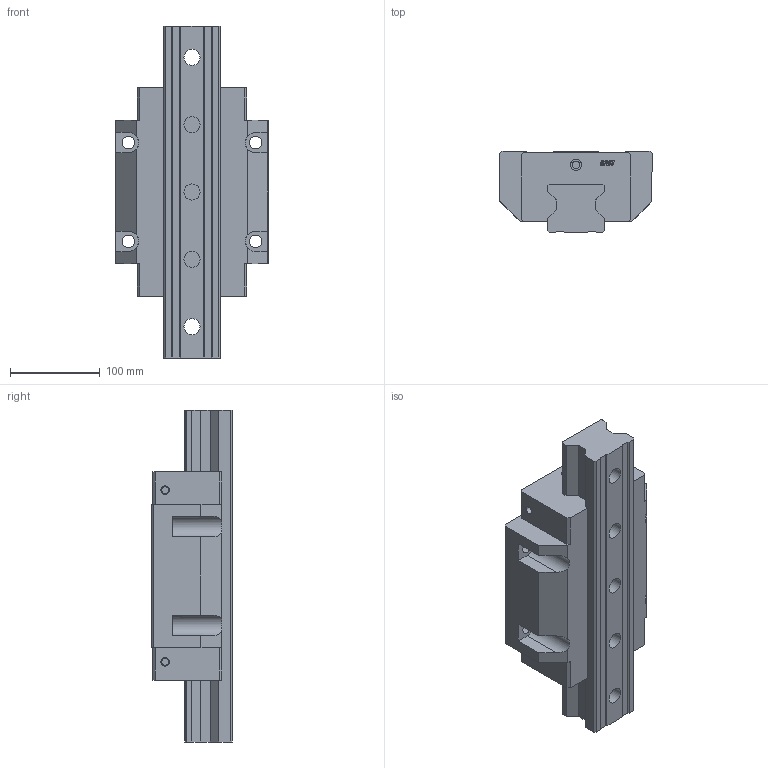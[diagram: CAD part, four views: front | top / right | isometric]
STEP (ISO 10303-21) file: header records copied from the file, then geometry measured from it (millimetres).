
FILE_DESCRIPTION(/* description */ (''),/* implementation_level */ '2;1');
FILE_NAME(/* name */ 'SRW65CC.stp',/* time_stamp */ '2022-01-22T15:28:10+08:00',/* author */ (''),/* organization */ (''),/* preprocessor_version */ 'ST-DEVELOPER v15',/* originating_system */ 'SIEMENS PLM Software NX 8.5',/* authorisation */ '');
FILE_SCHEMA (('CONFIG_CONTROL_DESIGN'));
Length unit declared in the file: millimetre
Products named in the file (1): _model1
Bounding box: 170 x 90 x 370 mm (x, y, z)
Volume: 3040891 mm3; surface area: 273874.2 mm2
Topology: 2 solids, 2 shells, 265 faces, 793 edges, 553 vertices
Faces by surface type: plane 140, extrusion 76, cylinder 30, cone 19
Full cylindrical faces by diameter (mm): 8.5 x2, 12.5 x2, 14 x6, 18 x5, 23 x2, 26 x5
Entity records: 9535 total; most frequent: CARTESIAN_POINT 2595, ORIENTED_EDGE 1480, DIRECTION 1201, EDGE_CURVE 740, VERTEX_POINT 541, VECTOR 487, LINE 411, AXIS2_PLACEMENT_3D 357
